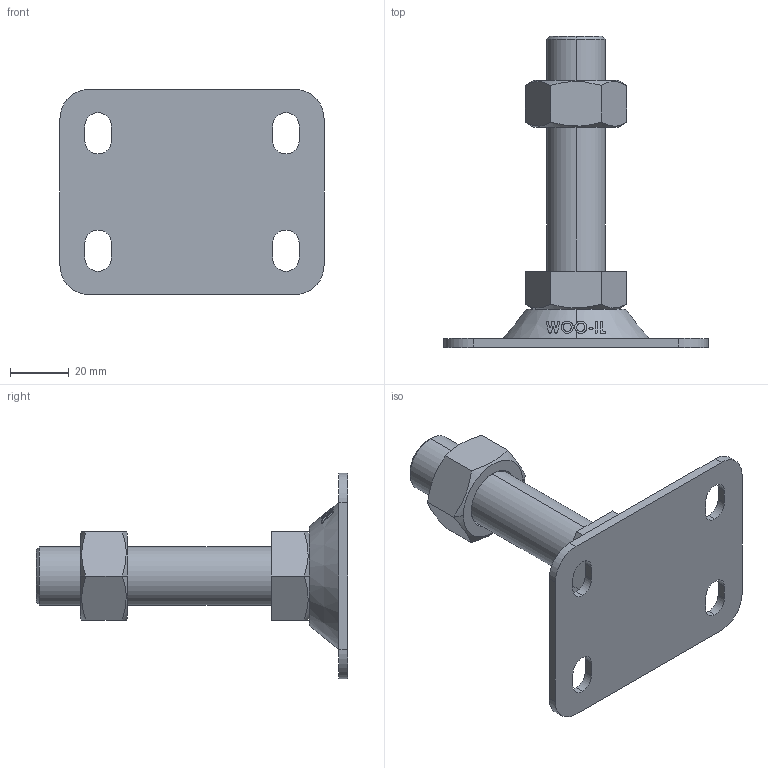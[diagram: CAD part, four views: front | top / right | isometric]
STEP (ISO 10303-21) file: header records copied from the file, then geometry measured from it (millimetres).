
FILE_DESCRIPTION (( 'STEP AP214' ), '1' );
FILE_NAME ('FABL7090-M20-80.step', '2021-03-28T23:53:07', ( '' ), ( '' ), 'SwSTEP 2.0', 'SolidWorks 2019', '' );
FILE_SCHEMA (( 'AUTOMOTIVE_DESIGN' ));
Length unit declared in the file: millimetre
Products named in the file (2): FABL7090-M20-80
Bounding box: 90 x 106 x 70 mm (x, y, z)
Volume: 73781.1 mm3; surface area: 23621.4 mm2
Topology: 2 solids, 2 shells, 146 faces, 384 edges, 252 vertices
Faces by surface type: plane 58, cylinder 48, cone 22, bspline 18
Entity records: 6096 total; most frequent: CARTESIAN_POINT 2668, ORIENTED_EDGE 768, DIRECTION 582, EDGE_CURVE 384, VERTEX_POINT 252, AXIS2_PLACEMENT_3D 210, EDGE_LOOP 166, LINE 162
